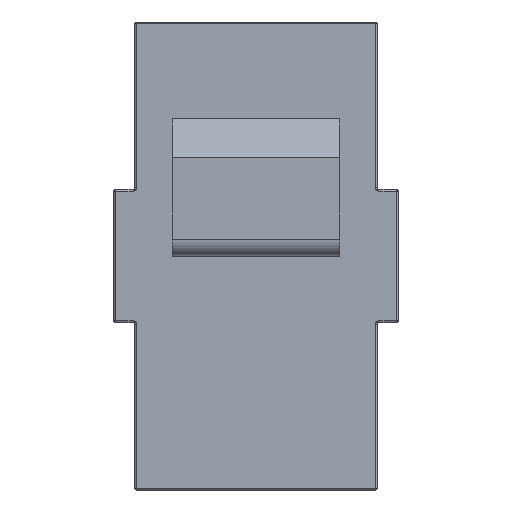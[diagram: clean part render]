
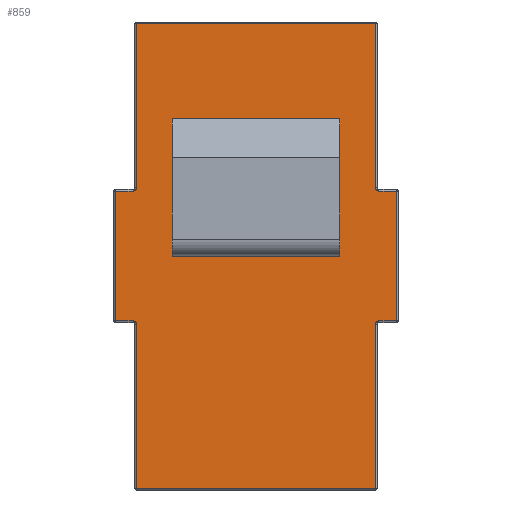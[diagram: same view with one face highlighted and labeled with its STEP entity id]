
A CAD part, front view. The second image highlights one B-rep face of the part: STEP entity #859.
In plain terms, the highlighted planar face has unit normal (0, -1, 0).
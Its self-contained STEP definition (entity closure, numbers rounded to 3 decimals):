
#626 = VERTEX_POINT('',#627);
#627 = CARTESIAN_POINT('',(-7.15,-8.05,-13.9));
#634 = EDGE_CURVE('',#626,#635,#637,.T.);
#635 = VERTEX_POINT('',#636);
#636 = CARTESIAN_POINT('',(7.15,-8.05,-13.9));
#637 = LINE('',#638,#639);
#638 = CARTESIAN_POINT('',(-7.25,-8.05,-13.9));
#639 = VECTOR('',#640,1.);
#640 = DIRECTION('',(1.,0.,0.));
#859 = ADVANCED_FACE('',(#860,#985),#1019,.T.);
#860 = FACE_BOUND('',#861,.T.);
#861 = EDGE_LOOP('',(#862,#872,#880,#889,#895,#896,#904,#913,#921,#929,
    #937,#946,#954,#962,#970,#979));
#862 = ORIENTED_EDGE('',*,*,#863,.F.);
#863 = EDGE_CURVE('',#864,#866,#868,.T.);
#864 = VERTEX_POINT('',#865);
#865 = CARTESIAN_POINT('',(-8.4,-8.05,-3.88));
#866 = VERTEX_POINT('',#867);
#867 = CARTESIAN_POINT('',(-8.4,-8.05,3.88));
#868 = LINE('',#869,#870);
#869 = CARTESIAN_POINT('',(-8.4,-8.05,0.));
#870 = VECTOR('',#871,1.);
#871 = DIRECTION('',(0.,0.,1.));
#872 = ORIENTED_EDGE('',*,*,#873,.T.);
#873 = EDGE_CURVE('',#864,#874,#876,.T.);
#874 = VERTEX_POINT('',#875);
#875 = CARTESIAN_POINT('',(-7.35,-8.05,-3.88));
#876 = LINE('',#877,#878);
#877 = CARTESIAN_POINT('',(-8.5,-8.05,-3.88));
#878 = VECTOR('',#879,1.);
#879 = DIRECTION('',(1.,0.,0.));
#880 = ORIENTED_EDGE('',*,*,#881,.F.);
#881 = EDGE_CURVE('',#882,#874,#884,.T.);
#882 = VERTEX_POINT('',#883);
#883 = CARTESIAN_POINT('',(-7.15,-8.05,-4.08));
#884 = CIRCLE('',#885,0.2);
#885 = AXIS2_PLACEMENT_3D('',#886,#887,#888);
#886 = CARTESIAN_POINT('',(-7.35,-8.05,-4.08));
#887 = DIRECTION('',(0.,-1.,0.));
#888 = DIRECTION('',(1.,0.,0.));
#889 = ORIENTED_EDGE('',*,*,#890,.T.);
#890 = EDGE_CURVE('',#882,#626,#891,.T.);
#891 = LINE('',#892,#893);
#892 = CARTESIAN_POINT('',(-7.15,-8.05,-3.98));
#893 = VECTOR('',#894,1.);
#894 = DIRECTION('',(-0.,-0.,-1.));
#895 = ORIENTED_EDGE('',*,*,#634,.T.);
#896 = ORIENTED_EDGE('',*,*,#897,.F.);
#897 = EDGE_CURVE('',#898,#635,#900,.T.);
#898 = VERTEX_POINT('',#899);
#899 = CARTESIAN_POINT('',(7.15,-8.05,-4.08));
#900 = LINE('',#901,#902);
#901 = CARTESIAN_POINT('',(7.15,-8.05,-3.98));
#902 = VECTOR('',#903,1.);
#903 = DIRECTION('',(-0.,-0.,-1.));
#904 = ORIENTED_EDGE('',*,*,#905,.F.);
#905 = EDGE_CURVE('',#906,#898,#908,.T.);
#906 = VERTEX_POINT('',#907);
#907 = CARTESIAN_POINT('',(7.35,-8.05,-3.88));
#908 = CIRCLE('',#909,0.2);
#909 = AXIS2_PLACEMENT_3D('',#910,#911,#912);
#910 = CARTESIAN_POINT('',(7.35,-8.05,-4.08));
#911 = DIRECTION('',(0.,-1.,0.));
#912 = DIRECTION('',(0.,0.,1.));
#913 = ORIENTED_EDGE('',*,*,#914,.T.);
#914 = EDGE_CURVE('',#906,#915,#917,.T.);
#915 = VERTEX_POINT('',#916);
#916 = CARTESIAN_POINT('',(8.4,-8.05,-3.88));
#917 = LINE('',#918,#919);
#918 = CARTESIAN_POINT('',(7.25,-8.05,-3.88));
#919 = VECTOR('',#920,1.);
#920 = DIRECTION('',(1.,0.,0.));
#921 = ORIENTED_EDGE('',*,*,#922,.F.);
#922 = EDGE_CURVE('',#923,#915,#925,.T.);
#923 = VERTEX_POINT('',#924);
#924 = CARTESIAN_POINT('',(8.4,-8.05,3.88));
#925 = LINE('',#926,#927);
#926 = CARTESIAN_POINT('',(8.4,-8.05,0.));
#927 = VECTOR('',#928,1.);
#928 = DIRECTION('',(-0.,-0.,-1.));
#929 = ORIENTED_EDGE('',*,*,#930,.F.);
#930 = EDGE_CURVE('',#931,#923,#933,.T.);
#931 = VERTEX_POINT('',#932);
#932 = CARTESIAN_POINT('',(7.35,-8.05,3.88));
#933 = LINE('',#934,#935);
#934 = CARTESIAN_POINT('',(7.25,-8.05,3.88));
#935 = VECTOR('',#936,1.);
#936 = DIRECTION('',(1.,0.,0.));
#937 = ORIENTED_EDGE('',*,*,#938,.T.);
#938 = EDGE_CURVE('',#931,#939,#941,.T.);
#939 = VERTEX_POINT('',#940);
#940 = CARTESIAN_POINT('',(7.15,-8.05,4.08));
#941 = CIRCLE('',#942,0.2);
#942 = AXIS2_PLACEMENT_3D('',#943,#944,#945);
#943 = CARTESIAN_POINT('',(7.35,-8.05,4.08));
#944 = DIRECTION('',(-0.,1.,0.));
#945 = DIRECTION('',(0.,0.,-1.));
#946 = ORIENTED_EDGE('',*,*,#947,.T.);
#947 = EDGE_CURVE('',#939,#948,#950,.T.);
#948 = VERTEX_POINT('',#949);
#949 = CARTESIAN_POINT('',(7.15,-8.05,13.9));
#950 = LINE('',#951,#952);
#951 = CARTESIAN_POINT('',(7.15,-8.05,3.98));
#952 = VECTOR('',#953,1.);
#953 = DIRECTION('',(0.,0.,1.));
#954 = ORIENTED_EDGE('',*,*,#955,.F.);
#955 = EDGE_CURVE('',#956,#948,#958,.T.);
#956 = VERTEX_POINT('',#957);
#957 = CARTESIAN_POINT('',(-7.15,-8.05,13.9));
#958 = LINE('',#959,#960);
#959 = CARTESIAN_POINT('',(-7.25,-8.05,13.9));
#960 = VECTOR('',#961,1.);
#961 = DIRECTION('',(1.,0.,0.));
#962 = ORIENTED_EDGE('',*,*,#963,.F.);
#963 = EDGE_CURVE('',#964,#956,#966,.T.);
#964 = VERTEX_POINT('',#965);
#965 = CARTESIAN_POINT('',(-7.15,-8.05,4.08));
#966 = LINE('',#967,#968);
#967 = CARTESIAN_POINT('',(-7.15,-8.05,3.98));
#968 = VECTOR('',#969,1.);
#969 = DIRECTION('',(0.,0.,1.));
#970 = ORIENTED_EDGE('',*,*,#971,.T.);
#971 = EDGE_CURVE('',#964,#972,#974,.T.);
#972 = VERTEX_POINT('',#973);
#973 = CARTESIAN_POINT('',(-7.35,-8.05,3.88));
#974 = CIRCLE('',#975,0.2);
#975 = AXIS2_PLACEMENT_3D('',#976,#977,#978);
#976 = CARTESIAN_POINT('',(-7.35,-8.05,4.08));
#977 = DIRECTION('',(-0.,1.,0.));
#978 = DIRECTION('',(1.,0.,0.));
#979 = ORIENTED_EDGE('',*,*,#980,.F.);
#980 = EDGE_CURVE('',#866,#972,#981,.T.);
#981 = LINE('',#982,#983);
#982 = CARTESIAN_POINT('',(-8.5,-8.05,3.88));
#983 = VECTOR('',#984,1.);
#984 = DIRECTION('',(1.,0.,0.));
#985 = FACE_BOUND('',#986,.T.);
#986 = EDGE_LOOP('',(#987,#997,#1005,#1013));
#987 = ORIENTED_EDGE('',*,*,#988,.F.);
#988 = EDGE_CURVE('',#989,#991,#993,.T.);
#989 = VERTEX_POINT('',#990);
#990 = CARTESIAN_POINT('',(-5.,-8.05,0.));
#991 = VERTEX_POINT('',#992);
#992 = CARTESIAN_POINT('',(5.,-8.05,0.));
#993 = LINE('',#994,#995);
#994 = CARTESIAN_POINT('',(-5.,-8.05,0.));
#995 = VECTOR('',#996,1.);
#996 = DIRECTION('',(1.,0.,0.));
#997 = ORIENTED_EDGE('',*,*,#998,.F.);
#998 = EDGE_CURVE('',#999,#989,#1001,.T.);
#999 = VERTEX_POINT('',#1000);
#1000 = CARTESIAN_POINT('',(-5.,-8.05,2.));
#1001 = LINE('',#1002,#1003);
#1002 = CARTESIAN_POINT('',(-5.,-8.05,2.));
#1003 = VECTOR('',#1004,1.);
#1004 = DIRECTION('',(0.,0.,-1.));
#1005 = ORIENTED_EDGE('',*,*,#1006,.F.);
#1006 = EDGE_CURVE('',#1007,#999,#1009,.T.);
#1007 = VERTEX_POINT('',#1008);
#1008 = CARTESIAN_POINT('',(5.,-8.05,2.));
#1009 = LINE('',#1010,#1011);
#1010 = CARTESIAN_POINT('',(5.,-8.05,2.));
#1011 = VECTOR('',#1012,1.);
#1012 = DIRECTION('',(-1.,0.,0.));
#1013 = ORIENTED_EDGE('',*,*,#1014,.F.);
#1014 = EDGE_CURVE('',#991,#1007,#1015,.T.);
#1015 = LINE('',#1016,#1017);
#1016 = CARTESIAN_POINT('',(5.,-8.05,0.));
#1017 = VECTOR('',#1018,1.);
#1018 = DIRECTION('',(0.,0.,1.));
#1019 = PLANE('',#1020);
#1020 = AXIS2_PLACEMENT_3D('',#1021,#1022,#1023);
#1021 = CARTESIAN_POINT('',(0.,-8.05,0.
    ));
#1022 = DIRECTION('',(-0.,-1.,-0.));
#1023 = DIRECTION('',(0.,0.,-1.));
